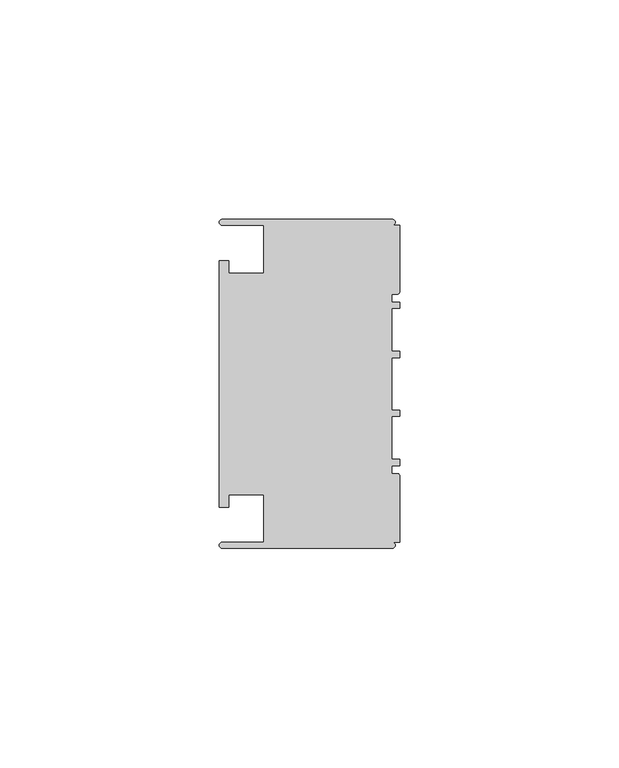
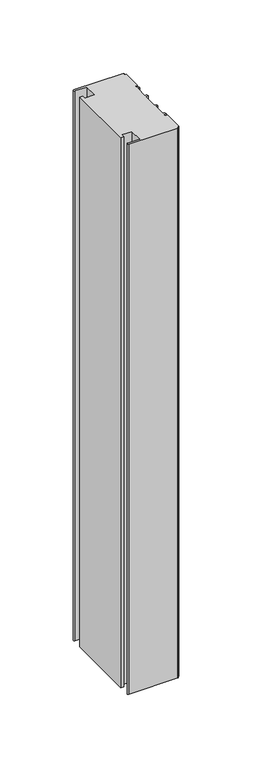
"""IFC4 building model written with IfcOpenShell, lengths in millimetres: member geometry, Прямоугольный импост : 3-AMG-2-Профиль 40Х75 Верх П."""

from ifc_helpers import new_model, si_unit, point, frame, frame_2d, origin, place, context, project, spatial, polyline, circle_curve, trimmed, segment, composite_curve, outline, extrude, source, transform, mapped, element, save


def member_a9d046c8(model_context):
    return source(origin(), model_context, "Body", "SweptSolid", [
        extrude(outline(composite_curve([segment(polyline([(-1.7, -37.5), (-40.4, -37.5)]), True, "CONTINUOUS"), segment(trimmed(circle_curve(frame_2d((-40.4, -36.8)), 0.7), [point((-40.4, -37.5))], [point((-40.4, -36.1))], False, "CARTESIAN"), True, "CONTINUOUS"), segment(polyline([(-40.4, -36.1), (-31.0, -36.1), (-31.0, -25.25), (-39.0, -25.25), (-39.0, -28.1), (-41.1, -28.1), (-41.1, 28.1), (-39.0, 28.1), (-39.0, 25.25), (-31.0, 25.25), (-31.0, 36.1), (-40.4, 36.1)]), True, "CONTINUOUS"), segment(trimmed(circle_curve(frame_2d((-40.4, 36.8)), 0.7), [point((-40.4, 36.1))], [point((-40.4, 37.5))], False, "CARTESIAN"), True, "CONTINUOUS"), segment(polyline([(-40.4, 37.5), (-1.7, 37.5)]), True, "CONTINUOUS"), segment(trimmed(circle_curve(frame_2d((-1.7, 36.8)), 0.7), [point((-1.7, 37.5))], [point((-1.7, 36.1))], False, "CARTESIAN"), True, "CONTINUOUS"), segment(polyline([(-1.7, 36.1), (0.0, 36.1), (0.0, 20.95)]), True, "CONTINUOUS"), segment(trimmed(circle_curve(frame_2d((-0.5, 20.95)), 0.5), [point((0.0, 20.95))], [point((-0.5, 20.45))], False, "CARTESIAN"), True, "CONTINUOUS"), segment(polyline([(-0.5, 20.45), (-1.8, 20.45), (-1.8, 18.65), (0.0, 18.65), (0.0, 17.25), (-1.8, 17.25), (-1.8, 7.4), (0.0, 7.4), (0.0, 6.0), (-1.8, 6.0), (-1.8, -6.0), (0.0, -6.0), (0.0, -7.4), (-1.8, -7.4), (-1.8, -17.25), (0.0, -17.25), (0.0, -18.65), (-1.8, -18.65), (-1.8, -20.45), (-0.5, -20.45)]), True, "CONTINUOUS"), segment(trimmed(circle_curve(frame_2d((-0.5, -20.95)), 0.5), [point((-0.5, -20.45))], [point((0.0, -20.95))], False, "CARTESIAN"), True, "CONTINUOUS"), segment(polyline([(0.0, -20.95), (0.0, -36.1), (-1.7, -36.1)]), True, "CONTINUOUS"), segment(trimmed(circle_curve(frame_2d((-1.7, -36.8)), 0.7), [point((-1.7, -36.1))], [point((-1.7, -37.5))], False, "CARTESIAN"), True, "CONTINUOUS")], self_intersect=False)), frame((0.0, 0.0, -460.0), z_axis=(0.0, 0.0, 1.0), x_axis=(1.0, 0.0, 0.0)), (0.0, 0.0, 1.0), 460.0),
    ])


if __name__ == "__main__":
    model = new_model("IFC4")
    model_context = context("Model", 3, world=origin())
    ifc_project = project(units=[si_unit("LENGTHUNIT", "METRE", prefix="MILLI")], contexts=[model_context])
    site = spatial("IfcSite", under=ifc_project)
    building = spatial("IfcBuilding", under=site)
    placement = place(None, origin())
    member_shape = member_a9d046c8(model_context)
    element("IfcMember", 1, ObjectType="Прямоугольный импост : 3-AMG-2-Профиль 40Х75 Верх П", at=placement, inside=building, context=model_context, shape_type="MappedRepresentation", body=[
        mapped(member_shape, transform((0.0, 0.0, 0.0), x_axis=(1.0, 0.0, 0.0), y_axis=(0.0, 1.0, 0.0), z_axis=(0.0, 0.0, 1.0))),
    ])
    save(model, "model.ifc")
